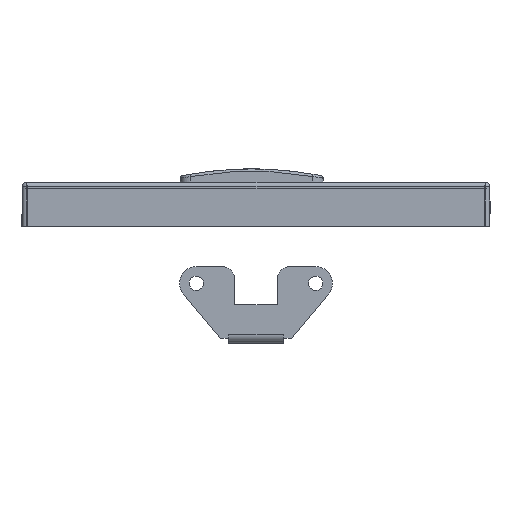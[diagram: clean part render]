
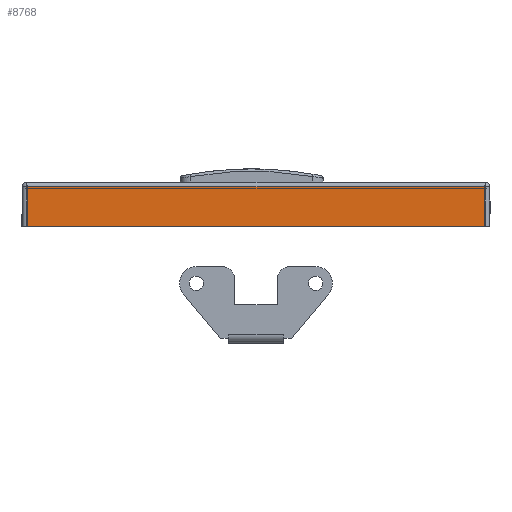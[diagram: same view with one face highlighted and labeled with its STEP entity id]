
A CAD part, left-side view. The second image highlights one B-rep face of the part: STEP entity #8768.
In plain terms, the highlighted planar face has unit normal (-1, 0, 0).
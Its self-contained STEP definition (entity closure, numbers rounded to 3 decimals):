
#54 = LINE ( 'NONE', #5563, #8824 ) ;
#141 = DIRECTION ( 'NONE',  ( 0., 0., 1. ) ) ;
#304 = EDGE_CURVE ( 'NONE', #6275, #7091, #9177, .T. ) ;
#342 = ORIENTED_EDGE ( 'NONE', *, *, #2531, .T. ) ;
#503 = DIRECTION ( 'NONE',  ( 0., 1., 0. ) ) ;
#1166 = VERTEX_POINT ( 'NONE', #1238 ) ;
#1238 = CARTESIAN_POINT ( 'NONE',  ( -297.5, 95.97, -0.53 ) ) ;
#1502 = DIRECTION ( 'NONE',  ( 0., -1., 0. ) ) ;
#2339 = FACE_OUTER_BOUND ( 'NONE', #6565, .T. ) ;
#2531 = EDGE_CURVE ( 'NONE', #1166, #5224, #8858, .T. ) ;
#2673 = CARTESIAN_POINT ( 'NONE',  ( -297.5, -95.97, 1.5 ) ) ;
#4000 = ORIENTED_EDGE ( 'NONE', *, *, #9984, .T. ) ;
#4237 = CARTESIAN_POINT ( 'NONE',  ( -297.5, -95.97, -17. ) ) ;
#4382 = VECTOR ( 'NONE', #141, 1000. ) ;
#4919 = DIRECTION ( 'NONE',  ( 0., 0., -1. ) ) ;
#5025 = AXIS2_PLACEMENT_3D ( 'NONE', #8970, #5586, #503 ) ;
#5224 = VERTEX_POINT ( 'NONE', #5323 ) ;
#5323 = CARTESIAN_POINT ( 'NONE',  ( -297.5, 95.97, -17. ) ) ;
#5563 = CARTESIAN_POINT ( 'NONE',  ( -297.5, 98., -0.53 ) ) ;
#5586 = DIRECTION ( 'NONE',  ( 1., 0., 0. ) ) ;
#5663 = VECTOR ( 'NONE', #1502, 1000. ) ;
#6275 = VERTEX_POINT ( 'NONE', #4237 ) ;
#6565 = EDGE_LOOP ( 'NONE', ( #4000, #342, #8665, #8170 ) ) ;
#6643 = EDGE_CURVE ( 'NONE', #5224, #6275, #7925, .T. ) ;
#7091 = VERTEX_POINT ( 'NONE', #10827 ) ;
#7443 = CARTESIAN_POINT ( 'NONE',  ( -297.5, 98., -17. ) ) ;
#7456 = CARTESIAN_POINT ( 'NONE',  ( -297.5, 95.97, 1.5 ) ) ;
#7925 = LINE ( 'NONE', #7443, #5663 ) ;
#8170 = ORIENTED_EDGE ( 'NONE', *, *, #304, .T. ) ;
#8665 = ORIENTED_EDGE ( 'NONE', *, *, #6643, .T. ) ;
#8768 = ADVANCED_FACE ( 'NONE', ( #2339 ), #10684, .F. ) ;
#8824 = VECTOR ( 'NONE', #8984, 1000. ) ;
#8858 = LINE ( 'NONE', #7456, #10863 ) ;
#8970 = CARTESIAN_POINT ( 'NONE',  ( -297.5, 98., 1.5 ) ) ;
#8984 = DIRECTION ( 'NONE',  ( 0., 1., 0. ) ) ;
#9177 = LINE ( 'NONE', #2673, #4382 ) ;
#9984 = EDGE_CURVE ( 'NONE', #7091, #1166, #54, .T. ) ;
#10684 = PLANE ( 'NONE',  #5025 ) ;
#10827 = CARTESIAN_POINT ( 'NONE',  ( -297.5, -95.97, -0.53 ) ) ;
#10863 = VECTOR ( 'NONE', #4919, 1000. ) ;
